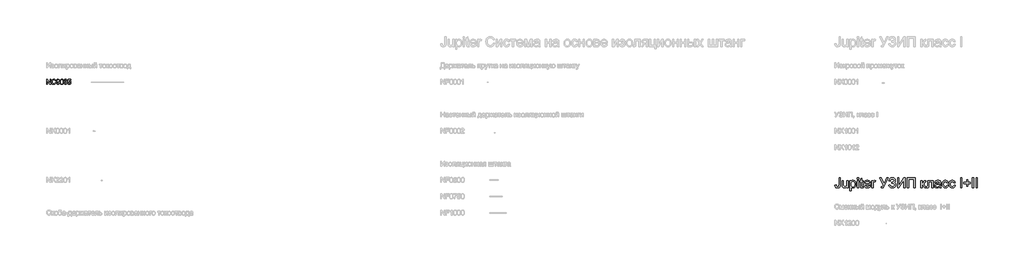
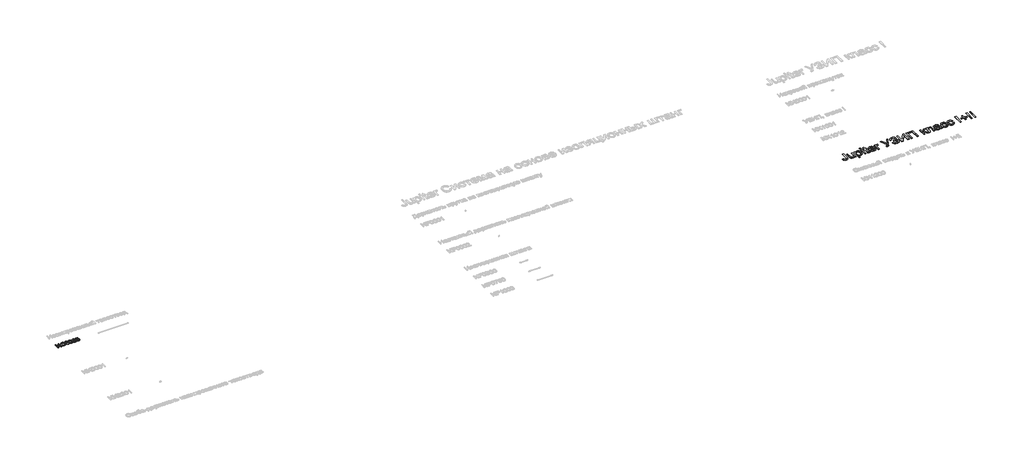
# One storey, part 32 of 124: 2 proxies.
"""IFC4 building model written with IfcOpenShell, lengths in millimetres."""

import ifcopenshell
import ifcopenshell.guid

model = None  # the IFC model being written
_history = None  # IfcOwnerHistory: only IFC2X3 demands one
_inside = {}  # id of a spatial element -> (the spatial element, [elements in it])
_under = {}  # id of a project, library or spatial element -> (it, [spatial elements below it])
_declared = {}  # id of a project -> (the project, [libraries it declares])
_typed = {}  # id of a type object -> (the type object, [elements of that type])
_made_of = {}  # id of a material, layer set ... -> (it, [elements and type objects made of it])


def new_model(schema):
    """Start an empty IFC model of exactly this schema.

    Asked for "IFC4X3", IfcOpenShell would pick the latest addendum, in which some entities
    have other attributes; the version numbers below select the first issue.
    IFC2X3 requires an IfcOwnerHistory on every rooted entity: one is made here for all.
    """
    global model, _history
    if schema == "IFC4X3":
        model = ifcopenshell.file(schema_version=(4, 3, 0, 0))
    else:
        model = ifcopenshell.file(schema=schema)
    _inside.clear()
    _under.clear()
    _declared.clear()
    _typed.clear()
    _made_of.clear()
    _history = None
    if model.schema == "IFC2X3":
        org = make("IfcOrganization", Name="unknown")
        user = make(
            "IfcPersonAndOrganization",
            ThePerson=make("IfcPerson", FamilyName="unknown"),
            TheOrganization=org,
        )
        app = make(
            "IfcApplication",
            ApplicationDeveloper=org,
            Version="unknown",
            ApplicationFullName="unknown",
            ApplicationIdentifier="unknown",
        )
        _history = make(
            "IfcOwnerHistory",
            OwningUser=user,
            OwningApplication=app,
            ChangeAction="ADDED",
            CreationDate=0,
        )
    return model


def make(cls, **values):
    """One entity of the class cls with the attributes given. An attribute that is None is left unset."""
    return model.create_entity(
        cls, **{name: value for name, value in values.items() if value is not None}
    )


def rooted(cls, **values):
    """An entity with a GlobalId (a new one), such as an element, a storey or a relation."""
    return make(cls, GlobalId=ifcopenshell.guid.new(), OwnerHistory=_history, **values)


def si_unit(unit_type, name, prefix=None):
    """IfcSIUnit, for example si_unit("LENGTHUNIT", "METRE", prefix="MILLI")."""
    return make("IfcSIUnit", UnitType=unit_type, Prefix=prefix, Name=name)


def assignment(units):
    """IfcUnitAssignment: the units of a project."""
    return None if units is None else make("IfcUnitAssignment", Units=units)


def point(xyz):
    """IfcCartesianPoint."""
    return None if xyz is None else make("IfcCartesianPoint", Coordinates=xyz)


def direction(xyz):
    """IfcDirection."""
    return None if xyz is None else make("IfcDirection", DirectionRatios=xyz)


def frame(location, z_axis=None, x_axis=None):
    """IfcAxis2Placement3D, a coordinate frame: its origin and axes. An axis left out is left unset."""
    return make(
        "IfcAxis2Placement3D",
        Location=point(location),
        Axis=direction(z_axis),
        RefDirection=direction(x_axis),
    )


def origin():
    """The frame at (0, 0, 0) with its axes left unset."""
    return frame((0.0, 0.0, 0.0))


def origin_with_axes():
    """The frame at (0, 0, 0) with the z axis (0, 0, 1) and the x axis (1, 0, 0) written out."""
    return frame((0.0, 0.0, 0.0), z_axis=(0.0, 0.0, 1.0), x_axis=(1.0, 0.0, 0.0))


def place(relative_to, where):
    """IfcLocalPlacement: puts the frame where relative to a parent placement (None: the world)."""
    return make(
        "IfcLocalPlacement", PlacementRelTo=relative_to, RelativePlacement=where
    )


def context(
    kind, dimensions, precision=None, world=None, true_north=None, identifier=None
):
    """IfcGeometricRepresentationContext, for example the 3D "Model" context."""
    return make(
        "IfcGeometricRepresentationContext",
        ContextIdentifier=identifier,
        ContextType=kind,
        CoordinateSpaceDimension=dimensions,
        Precision=precision,
        WorldCoordinateSystem=world,
        TrueNorth=true_north,
    )


def project(units=None, contexts=None):
    """IfcProject with its units and contexts."""
    return rooted(
        "IfcProject",
        Name="project",
        RepresentationContexts=contexts,
        UnitsInContext=assignment(units),
    )


def spatial(cls, under=None, at=None, **own):
    """A site, building, storey or space (cls), placed at a placement, below another one or the project."""
    s = rooted(cls, ObjectPlacement=at, **own)
    if under is not None:
        _under.setdefault(under.id(), (under, []))[1].append(s)
    return s


def polyline(points):
    """IfcPolyline through the points."""
    return make("IfcPolyline", Points=[point(p) for p in points])


def outline(outer, holes=None, kind="AREA"):
    """IfcArbitraryClosedProfileDef: a profile drawn as a closed curve; with holes, ...WithVoids."""
    if holes is None:
        return make("IfcArbitraryClosedProfileDef", ProfileType=kind, OuterCurve=outer)
    return make(
        "IfcArbitraryProfileDefWithVoids",
        ProfileType=kind,
        OuterCurve=outer,
        InnerCurves=holes,
    )


def extrude(swept, where, along, depth):
    """IfcExtrudedAreaSolid: the profile swept, set in the frame where, extruded along a direction by depth."""
    return make(
        "IfcExtrudedAreaSolid",
        SweptArea=swept,
        Position=where,
        ExtrudedDirection=direction(along),
        Depth=depth,
    )


def shape(context_of_items, identifier, shape_type, items):
    """IfcShapeRepresentation: the items that make up one representation, for example the "Body"."""
    return make(
        "IfcShapeRepresentation",
        ContextOfItems=context_of_items,
        RepresentationIdentifier=identifier,
        RepresentationType=shape_type,
        Items=items,
    )


def made_of(thing, what):
    """Note that an element or type object is made of a material, layer set ...; save() writes the relation."""
    if what is not None:
        _made_of.setdefault(what.id(), (what, []))[1].append(thing)
    return thing


def element(
    cls,
    number,
    at=None,
    inside=None,
    cuts=None,
    type_object=None,
    material=None,
    context=None,
    identifier="Body",
    shape_type=None,
    held_by="IfcProductDefinitionShape",
    body=None,
    shapes=None,
    **own,
):
    """One element of the class cls, such as IfcWall. Its Tag is "e" and its number.

    at: its placement. inside: the storey or other place that contains it. cuts: it is an
    opening in that element (IfcRelVoidsElement). A single representation is given by context,
    identifier, shape_type and body (its items); several are given by shapes. held_by: the class
    of the entity that holds the representations. save() writes the other relations.
    """
    e = rooted(cls, Tag="e%d" % number, ObjectPlacement=at, **own)
    if body is not None:
        shapes = [shape(context, identifier, shape_type, body)]
    if shapes is not None:
        e.Representation = make(held_by, Representations=shapes)
    if inside is not None:
        _inside.setdefault(inside.id(), (inside, []))[1].append(e)
    if cuts is not None:
        rooted(
            "IfcRelVoidsElement", RelatingBuildingElement=cuts, RelatedOpeningElement=e
        )
    if type_object is not None:
        _typed.setdefault(type_object.id(), (type_object, []))[1].append(e)
    return made_of(e, material)


def aggregate(whole, parts):
    """IfcRelAggregates: a whole, such as a stair, and the parts it consists of."""
    return rooted("IfcRelAggregates", RelatingObject=whole, RelatedObjects=parts)


def save(model, path):
    """Write the relations noted so far, then the file.

    IfcRelAggregates (storeys below a building ...), IfcRelContainedInSpatialStructure (elements
    in a storey), IfcRelDefinesByType, IfcRelAssociatesMaterial and IfcRelDeclares: one each for
    every whole, place, type object, material and project.
    """
    for whole, parts in _under.values():
        aggregate(whole, parts)
    for where, things in _inside.values():
        rooted(
            "IfcRelContainedInSpatialStructure",
            RelatedElements=things,
            RelatingStructure=where,
        )
    for kind, things in _typed.values():
        rooted("IfcRelDefinesByType", RelatedObjects=things, RelatingType=kind)
    for what, things in _made_of.values():
        rooted("IfcRelAssociatesMaterial", RelatedObjects=things, RelatingMaterial=what)
    for by, libraries in _declared.values():
        rooted("IfcRelDeclares", RelatingContext=by, RelatedDefinitions=libraries)
    model.write(path)


model = new_model("IFC4")

# Units and contexts
model_context = context("Model", 3, world=origin())
ifc_project = project(units=[si_unit("LENGTHUNIT", "METRE", prefix="MILLI")], contexts=[model_context])

# Site, building, storey
site = spatial("IfcSite", under=ifc_project)
building = spatial("IfcBuilding", under=site)
storey = spatial("IfcBuildingStorey", under=building, Name="Этаж 01", Elevation=0.0)

# Proxies
placement = place(None, origin())
element("IfcBuildingElementProxy", 1, Name="600 мм Arial", ObjectType="600 мм Arial", at=placement, inside=storey, context=model_context, shape_type="SweptSolid", body=[
    extrude(outline(polyline([(49495.1131782, -99712.2233567), (49570.4554108, -99702.511272), (49573.1133582, -99732.4660635), (49578.2912973, -99757.2889011), (49585.989228, -99776.9797849), (49596.2071504, -99791.5387148), (49608.7887147, -99802.0325487), (49623.5775709, -99809.5281444), (49640.573719, -99814.0255018), (49659.7771592, -99815.5246209), (49687.6074321, -99812.1217125), (49711.3542149, -99801.9129871), (49729.6747383, -99785.8365439), (49741.2262329, -99764.830482), (49747.3514681, -99734.4250351), (49749.3932132, -99690.150437), (49749.3932132, -99278.7112136), (49824.7354458, -99278.7112136), (49824.7354458, -99688.8260618), (49820.1921032, -99755.9093436), (49814.5129249, -99783.0360422), (49806.5620753, -99805.8861126), (49796.1418178, -99825.3700628), (49783.0544158, -99842.3984007), (49767.2998693, -99856.9711262), (49748.8781784, -99869.0882394), (49705.9647437, -99885.4222), (49656.245492, -99890.8668535), (49619.1170017, -99888.0571548), (49586.6054304, -99879.6280586), (49558.7107781, -99865.5795649), (49535.4330448, -99845.9116737), (49517.1860979, -99820.6979615), (49504.3838044, -99790.0120046), (49497.0261645, -99753.853803), (49495.1131782, -99712.2233567)])), origin_with_axes(), (0.0, 0.0, 1.0), 20.0),
    extrude(outline(polyline([(50229.6999461, -99881.4490745), (50229.6999461, -99805.3710779), (50202.4398903, -99842.7754797), (50170.6916741, -99869.4929096), (50134.4552976, -99885.5233676), (50093.7307607, -99890.8668535), (50057.0345317, -99887.1144572), (50022.8766884, -99875.8572681), (49994.218681, -99858.9346963), (49974.0219595, -99838.1861518), (49960.4287198, -99812.9862352), (49951.5811578, -99782.7095469), (49947.1665738, -99712.6648151), (49947.1665738, -99438.8134579), (50022.5088064, -99438.8134579), (50022.5088064, -99677.2009907), (50023.6492406, -99724.8784973), (50027.0705432, -99754.0147513), (50038.0518207, -99779.6377323), (50056.8689848, -99799.1170839), (50082.2712366, -99811.4227367), (50113.0077773, -99815.5246209), (50145.5101515, -99811.3307662), (50175.9155984, -99798.7492019), (50200.9867564, -99778.9387565), (50217.4862639, -99753.0582581), (50226.6465256, -99717.6128279), (50229.6999461, -99669.1075868), (50229.6999461, -99438.8134579), (50305.0421787, -99438.8134579), (50305.0421787, -99881.4490745), (50229.6999461, -99881.4490745)])), origin_with_axes(), (0.0, 0.0, 1.0), 20.0),
    extrude(outline(polyline([(50408.6377486, -100050.9690978), (50408.6377486, -99438.8134579), (50483.9799812, -99438.8134579), (50483.9799812, -99512.6841625), (50508.5544985, -99476.2454509), (50536.0720717, -99450.2177997), (50568.1513817, -99434.601209), (50606.4111092, -99429.3956788), (50632.6870807, -99431.2166947), (50657.3627655, -99436.6797423), (50680.4381637, -99445.7848217), (50701.9132751, -99458.5319328), (50721.3190504, -99474.5899819), (50738.1864399, -99493.6278751), (50752.5154436, -99515.6456125), (50764.3060615, -99540.6431941), (50780.0881991, -99596.1565872), (50785.3489116, -99656.7467518), (50779.4076174, -99721.1812833), (50771.9809996, -99750.8463676), (50761.5837348, -99778.8099978), (50748.358377, -99804.3410083), (50732.4474807, -99826.7082336), (50713.8510459, -99845.9116737), (50692.5690725, -99861.9513287), (50669.6454256, -99874.6018708), (50646.1239706, -99883.6379723), (50622.0047073, -99889.0596332), (50597.2876357, -99890.8668535), (50562.6515459, -99886.0292053), (50531.7310642, -99871.5162606), (50505.2619546, -99849.6088878), (50483.9799812, -99822.5879552), (50483.9799812, -100050.9690978), (50408.6377486, -100050.9690978)]), holes=[polyline([(50483.9799812, -99663.6629333), (50486.0171277, -99699.9728862), (50492.1285674, -99731.2060676), (50502.3143001, -99757.3624775), (50516.574326, -99778.4421158), (50533.7406196, -99794.6657118), (50552.6451556, -99806.2539946), (50573.287934, -99813.2069643), (50595.6689549, -99815.5246209), (50618.3718726, -99813.1241909), (50639.3917301, -99805.9229008), (50658.7285274, -99793.9207508), (50676.3822647, -99777.1177406), (50691.092946, -99755.2747472), (50701.6005754, -99728.1526471), (50707.9051531, -99695.7514403), (50710.006679, -99658.071127), (50707.9557369, -99622.0738738), (50701.8029105, -99590.8958747), (50691.5481999, -99564.5371297), (50677.1916051, -99542.9976389), (50659.9839247, -99526.2590081), (50641.1759577, -99514.3028433), (50620.767704, -99507.1291444), (50598.7591637, -99504.7379114), (50576.8196012, -99507.2808957), (50556.1768227, -99514.9098486), (50536.8308283, -99527.62477), (50518.7816179, -99545.4256601), (50503.5559019, -99568.0733954), (50492.6803904, -99595.3288527), (50486.1550835, -99627.192032), (50483.9799812, -99663.6629333)])]), origin_with_axes(), (0.0, 0.0, 1.0), 20.0),
    extrude(outline(polyline([(50870.1089233, -99354.0534462), (50870.1089233, -99278.7112136), (50945.4511559, -99278.7112136), (50945.4511559, -99354.0534462), (50870.1089233, -99354.0534462)])), origin_with_axes(), (0.0, 0.0, 1.0), 20.0),
    extrude(outline(polyline([(50870.1089233, -99881.4490745), (50870.1089233, -99438.8134579), (50945.4511559, -99438.8134579), (50945.4511559, -99881.4490745), (50870.1089233, -99881.4490745)])), origin_with_axes(), (0.0, 0.0, 1.0), 20.0),
    extrude(outline(polyline([(51218.5667492, -99818.6148297), (51227.9845282, -99883.6563664), (51171.6250066, -99890.8668535), (51135.4622064, -99887.7398566), (51108.4964562, -99878.3588657), (51089.4401689, -99863.9011033), (51077.0057574, -99845.5437917), (51070.1631523, -99814.0163047), (51067.8822839, -99760.048016), (51067.8822839, -99514.1556905), (51011.3756095, -99514.1556905), (51011.3756095, -99438.8134579), (51067.8822839, -99438.8134579), (51067.8822839, -99331.2447625), (51143.2245165, -99286.9517702), (51143.2245165, -99438.8134579), (51218.5667492, -99438.8134579), (51218.5667492, -99514.1556905), (51143.2245165, -99514.1556905), (51143.2245165, -99757.8407241), (51147.1976421, -99796.6890628), (51160.0735119, -99810.4478494), (51170.9444249, -99814.255428), (51185.7516752, -99815.5246209), (51218.5667492, -99818.6148297)])), origin_with_axes(), (0.0, 0.0, 1.0), 20.0),
    extrude(outline(polyline([(51603.8127745, -99749.6001674), (51677.6834791, -99759.0179465), (51666.3573122, -99788.6048559), (51651.0672168, -99814.6784923), (51631.8131929, -99837.2388557), (51608.5952404, -99856.285946), (51581.6524828, -99871.415093), (51551.2240433, -99882.2216266), (51517.3099219, -99888.7055468), (51479.9101185, -99890.8668535), (51433.161514, -99887.1374498), (51391.5080751, -99875.9492386), (51354.9498018, -99857.30222), (51323.4866942, -99831.1963939), (51298.18561, -99798.3583273), (51280.113407, -99759.5145872), (51269.2700851, -99714.6651734), (51265.6556445, -99663.8100861), (51269.3068733, -99611.2305519), (51280.2605598, -99564.8866176), (51298.5167038, -99524.7782831), (51324.0753054, -99490.9055484), (51355.4556396, -99463.9949804), (51391.1769813, -99444.7731462), (51431.2393306, -99433.2400456), (51475.6426874, -99429.3956788), (51518.615903, -99433.2308486), (51557.4780372, -99444.736358), (51592.2290902, -99463.912207), (51622.8690619, -99490.7583956), (51647.880439, -99524.5575539), (51665.7457084, -99564.592312), (51676.46487, -99610.86267), (51680.0379239, -99663.3686277), (51679.5964655, -99683.6757138), (51340.9978772, -99683.6757138), (51345.3618773, -99713.7408699), (51354.0392939, -99740.0720237), (51367.0301268, -99762.6691753), (51384.3343762, -99781.5323246), (51404.9955487, -99796.4039542), (51428.0571513, -99807.0265468), (51453.5191839, -99813.4001024), (51481.3816465, -99815.5246209), (51521.480784, -99811.5882836), (51555.2523511, -99799.7792715), (51582.696348, -99779.3618208), (51603.8127745, -99749.6001674)]), holes=[polyline([(51340.9978772, -99608.3334812), (51604.6956913, -99608.3334812), (51594.50536, -99568.5286494), (51585.7405715, -99552.8752705), (51574.5293677, -99540.0545829), (51553.9831583, -99524.6035391), (51530.6042575, -99513.5670793), (51504.3926653, -99506.9452034), (51475.3483818, -99504.7379114), (51448.8562796, -99506.4991464), (51424.5622724, -99511.7828516), (51402.46636, -99520.5890269), (51382.5685426, -99532.9176722), (51365.8712986, -99548.1985706), (51353.3771063, -99565.8615049), (51345.0859658, -99585.9064751), (51340.9978772, -99608.3334812)])]), origin_with_axes(), (0.0, 0.0, 1.0), 20.0),
    extrude(outline(polyline([(51755.3801565, -99881.4490745), (51755.3801565, -99438.8134579), (51821.3046101, -99438.8134579), (51821.3046101, -99504.296453), (51845.6583981, -99466.3310311), (51868.0991998, -99443.9638058), (51890.6135779, -99433.0377105), (51915.1880952, -99429.3956788), (51952.7120587, -99435.2082143), (51990.8246334, -99452.6458209), (51965.661505, -99520.1889552), (51939.1740013, -99508.6006723), (51912.6864977, -99504.7379114), (51890.1905137, -99508.4535195), (51870.0857626, -99519.600344), (51853.8437725, -99537.3322562), (51842.9360714, -99560.8031275), (51833.7758097, -99602.8888277), (51830.7223891, -99648.8005007), (51830.7223891, -99881.4490745), (51755.3801565, -99881.4490745)])), origin_with_axes(), (0.0, 0.0, 1.0), 20.0),
    extrude(outline(polyline([(52240.395779, -99278.7112136), (52323.8314155, -99278.7112136), (52504.0935931, -99635.7039017), (52666.2559766, -99278.7112136), (52748.9558491, -99278.7112136), (52520.1332481, -99748.2757922), (52485.5891287, -99821.1900036), (52457.8876145, -99863.6435859), (52444.4323305, -99875.5537655), (52428.3466903, -99884.0610366), (52409.6306938, -99889.1653993), (52388.284341, -99890.8668535), (52357.492618, -99888.5124088), (52320.4469011, -99881.4490745), (52320.4469011, -99815.5246209), (52379.7494787, -99815.5246209), (52403.4778674, -99811.3307662), (52423.7481654, -99798.7492019), (52443.2091229, -99771.2684169), (52464.5094904, -99722.3768997), (52240.395779, -99278.7112136)])), origin_with_axes(), (0.0, 0.0, 1.0), 20.0),
    extrude(outline(polyline([(52791.3358549, -99711.9290511), (52866.6780876, -99693.0934929), (52872.8263154, -99713.478754), (52882.5889838, -99733.8732121), (52912.9576425, -99774.6897195), (52933.2877213, -99792.5549888), (52956.6804177, -99805.3158956), (52983.1357316, -99812.9724396), (53012.6536632, -99815.5246209), (53042.6866296, -99813.607036), (53069.3626728, -99807.8542813), (53092.6817928, -99798.2663568), (53112.6439895, -99784.8432625), (53128.6422578, -99768.7070385), (53140.0695923, -99750.9797249), (53146.925993, -99731.6613216), (53149.2114598, -99710.7518287), (53146.7144608, -99688.4811724), (53139.2234637, -99668.6109461), (53126.7384685, -99651.1411499), (53109.2594752, -99636.0717837), (53087.4762625, -99623.9362764), (53062.0786093, -99615.2680568), (53033.0665154, -99610.0671251), (53000.439981, -99608.3334812), (52960.8558783, -99608.3334812), (52960.8558783, -99532.9912486), (53010.0600952, -99531.4645383), (53046.1309248, -99526.8844075), (53073.9244095, -99516.0318886), (53098.2965917, -99495.6880143), (53115.2927399, -99468.887811), (53120.9581226, -99438.6663051), (53119.0727274, -99420.304395), (53113.4165417, -99403.1840866), (53103.9895656, -99387.30538), (53090.791799, -99372.6682751), (53074.375065, -99360.4040091), (53055.2911865, -99351.6438191), (53033.5401635, -99346.3877051), (53009.1219961, -99344.6356671), (52967.3857837, -99350.0251383), (52932.2346591, -99366.193552), (52905.305697, -99391.26471), (52888.2359725, -99423.3624141), (52879.1308931, -99454.4484427), (52876.0958666, -99476.4845742), (52800.753634, -99457.649016), (52810.0817419, -99413.5031766), (52824.160126, -99375.2434491), (52842.9887863, -99342.8698335), (52866.567723, -99316.3823299), (52894.8969358, -99295.7809381), (52927.976425, -99281.0656583), (52965.8061904, -99272.2364904), (53008.3862321, -99269.2934345), (53049.4096731, -99272.3514536), (53085.9541508, -99281.5255108), (53118.0196652, -99296.8156062), (53145.6062163, -99318.2217398), (53167.7849021, -99343.7205606), (53183.6268205, -99371.2887176), (53193.1319715, -99400.9262109), (53196.3003552, -99432.6330403), (53191.3707365, -99472.2815224), (53176.5818803, -99507.2027208), (53151.9337866, -99537.3966355), (53117.4264555, -99562.8632666), (53139.3062371, -99570.8509045), (53159.3282147, -99582.1586773), (53177.4923882, -99596.7865851), (53193.7987577, -99614.734628), (53207.2540416, -99635.30383), (53216.8649588, -99657.7952155), (53222.631509, -99682.2087844), (53224.5536925, -99708.5445367), (53220.8656755, -99745.8063843), (53209.8016245, -99779.8952497), (53191.3615394, -99810.8111329), (53165.5454204, -99838.5540338), (53133.6408544, -99861.4408924), (53096.9354283, -99877.7886486), (53055.4291422, -99887.5973023), (53009.1219961, -99890.8668535), (52969.087238, -99888.0709504), (52932.7129057, -99879.6832409), (52899.9989993, -99865.7037251), (52870.9455187, -99846.1324029), (52845.552464, -99820.9692744), (52823.8198351, -99790.2143396), (52805.7476321, -99753.8675985), (52791.3358549, -99711.9290511)])), origin_with_axes(), (0.0, 0.0, 1.0), 20.0),
    extrude(outline(polyline([(53328.1492623, -99278.7112136), (53403.4914949, -99278.7112136), (53403.4914949, -99756.0748905), (53718.987094, -99278.7112136), (53799.0382161, -99278.7112136), (53799.0382161, -99881.4490745), (53723.6959835, -99881.4490745), (53723.6959835, -99405.4097727), (53408.9361484, -99881.4490745), (53328.1492623, -99881.4490745), (53328.1492623, -99278.7112136)])), origin_with_axes(), (0.0, 0.0, 1.0), 20.0),
    extrude(outline(polyline([(53930.8871232, -99278.7112136), (54401.776077, -99278.7112136), (54401.776077, -99881.4490745), (54326.4338444, -99881.4490745), (54326.4338444, -99354.0534462), (54006.2293558, -99354.0534462), (54006.2293558, -99881.4490745), (53930.8871232, -99881.4490745), (53930.8871232, -99278.7112136)])), origin_with_axes(), (0.0, 0.0, 1.0), 20.0),
    extrude(outline(polyline([(54759.6516819, -99438.8134579), (54834.9939145, -99438.8134579), (54834.9939145, -99627.1690394), (54865.6384847, -99623.784525), (54885.4673243, -99613.630982), (54903.0152955, -99587.1434783), (54926.8172605, -99534.7570822), (54946.0023066, -99491.9172239), (54961.1774389, -99466.6989131), (54975.3408957, -99452.9585206), (54991.4909153, -99444.552417), (55013.8397465, -99440.2481976), (55046.5996382, -99438.8134579), (55061.0206124, -99438.8134579), (55061.0206124, -99514.5971489), (55040.7135262, -99514.1556905), (55017.1690786, -99516.1422532), (55003.9253267, -99522.1019416), (54993.1831725, -99538.6934195), (54978.0264343, -99571.6924345), (54962.115538, -99604.7466318), (54947.6393815, -99625.3296294), (54930.1098044, -99639.0700219), (54905.0386464, -99651.5964039), (54928.9141879, -99662.2006024), (54952.5690002, -99680.9165989), (54976.0030833, -99707.7443934), (54999.2164372, -99742.6839859), (55079.8561705, -99881.4490745), (54994.2132421, -99881.4490745), (54915.1921895, -99745.6270418), (54893.8550338, -99709.4826358), (54875.460934, -99688.1638742), (54856.8828933, -99677.7344196), (54834.9939145, -99674.2579348), (54834.9939145, -99881.4490745), (54759.6516819, -99881.4490745), (54759.6516819, -99438.8134579)])), origin_with_axes(), (0.0, 0.0, 1.0), 20.0),
    extrude(outline(polyline([(55164.6161822, -99438.8134579), (55503.656229, -99438.8134579), (55503.656229, -99881.0076161), (55428.3139964, -99881.0076161), (55428.3139964, -99514.1556905), (55239.9584148, -99514.1556905), (55239.9584148, -99725.3199557), (55238.689222, -99786.6090961), (55234.8816433, -99822.735108), (55225.3718937, -99844.7896336), (55206.9961881, -99863.8643151), (55179.1107328, -99877.0528846), (55141.0717345, -99881.4490745), (55079.8561705, -99877.6231017), (55079.8561705, -99806.1068418), (55113.5541613, -99806.1068418), (55133.9900061, -99804.9480136), (55147.620034, -99801.4715287), (55156.1365022, -99795.4750522), (55161.2316679, -99786.7562489), (55164.6161822, -99721.0525246), (55164.6161822, -99438.8134579)])), origin_with_axes(), (0.0, 0.0, 1.0), 20.0),
    extrude(outline(polyline([(55899.2029502, -99824.9424), (55863.205697, -99855.8076994), (55826.141586, -99876.0044209), (55787.1644886, -99887.1512454), (55745.4282762, -99890.8668535), (55711.8820368, -99888.6319704), (55682.4652727, -99881.927321), (55657.1779841, -99870.7529054), (55636.0201708, -99855.1087236), (55619.3137297, -99835.9880569), (55607.3805575, -99814.3841867), (55600.2206542, -99790.2971131), (55597.8340197, -99763.726836), (55601.4392633, -99732.4936546), (55612.254994, -99704.1299528), (55628.9384424, -99679.8497411), (55650.1468395, -99660.8670301), (55675.0708446, -99646.5196323), (55702.9011176, -99636.1453601), (55768.0898071, -99624.8145946), (55845.1242969, -99612.895218), (55898.7614918, -99598.9157022), (55899.2029502, -99582.1402832), (55894.0158141, -99548.5158688), (55887.5318939, -99536.0630633), (55878.4544057, -99526.5165255), (55862.7642386, -99516.9883818), (55843.6527689, -99510.1825649), (55795.165922, -99504.7379114), (55750.2843185, -99508.361549), (55718.9407726, -99519.232462), (55697.5668286, -99539.337213), (55682.5940314, -99570.6623649), (55607.2517988, -99561.2445859), (55620.3300037, -99520.0418024), (55639.8461436, -99487.6681868), (55667.6212342, -99462.9097285), (55705.4762915, -99444.552417), (55751.7742406, -99433.1848633), (55804.8780066, -99429.3956788), (55855.8112689, -99432.7434049), (55896.1863178, -99442.7865834), (55926.6285529, -99457.8881393), (55947.7633736, -99476.4109978), (55961.7796776, -99499.311652), (55970.8663629, -99527.5465951), (55974.5451828, -99593.4710486), (55974.5451828, -99687.207381), (55978.3711556, -99818.0997949), (55984.0365383, -99850.4550164), (55993.380741, -99881.4490745), (55918.0385083, -99881.4490745), (55905.9719789, -99855.2558764), (55899.2029502, -99824.9424)]), holes=[polyline([(55899.2029502, -99674.2579348), (55848.5823877, -99686.8027108), (55777.654739, -99697.3609241), (55712.8339314, -99709.5746063), (55695.966542, -99717.9255276), (55683.4769482, -99729.440234), (55675.7514263, -99743.2358089), (55673.1762524, -99758.4293353), (55678.7864528, -99780.8333488), (55695.6170541, -99799.1906603), (55723.3001742, -99811.4411308), (55761.4679312, -99815.5246209), (55801.9349507, -99811.0180665), (55837.6930806, -99797.4984032), (55866.6821818, -99777.5775931), (55886.8421152, -99753.8675985), (55895.7816476, -99729.440234), (55898.7614918, -99695.5950905), (55899.2029502, -99674.2579348)])]), origin_with_axes(), (0.0, 0.0, 1.0), 20.0),
    extrude(outline(polyline([(56360.6741249, -99721.3468302), (56436.0163576, -99730.7646092), (56427.8217861, -99766.3158055), (56415.0102956, -99797.7743147), (56397.5818861, -99825.1401366), (56375.5365575, -99848.4132713), (56349.803212, -99866.9867135), (56321.3107515, -99880.253458), (56290.059176, -99888.2135046), (56256.0484855, -99890.8668535), (56213.7926398, -99887.165041), (56175.9053929, -99876.0596032), (56142.3867446, -99857.5505403), (56113.236695, -99831.6378523), (56089.6416635, -99798.8089828), (56072.7880696, -99759.5513754), (56062.6759133, -99713.8650301), (56059.3051945, -99661.7499469), (56065.0625477, -99594.7034533), (56072.2592392, -99564.5325312), (56082.3346074, -99536.5964922), (56095.35763, -99511.4563563), (56111.397285, -99489.6731437), (56130.4535724, -99471.2468543), (56152.5264921, -99456.177488), (56176.6181642, -99444.4604465), (56201.7307089, -99436.0911311), (56227.8641262, -99431.0695419), (56255.0184159, -99429.3956788), (56288.4450937, -99431.6949413), (56318.6803952, -99438.5927287), (56345.7243204, -99450.089041), (56369.5768692, -99466.1838783), (56389.8333716, -99486.5093585), (56406.0891572, -99510.6975997), (56418.3442262, -99538.7486018), (56426.5985785, -99570.6623649), (56351.2563459, -99580.080144), (56337.5895297, -99547.2098877), (56316.3075563, -99523.6470459), (56288.587648, -99509.465195), (56255.6070271, -99504.7379114), (56230.0070388, -99507.064765), (56206.9178451, -99514.0453259), (56186.339446, -99525.679594), (56168.2718415, -99541.9675693), (56153.5611602, -99563.2863309), (56143.0535307, -99590.0129579), (56136.748953, -99622.1474502), (56134.6474271, -99659.6898078), (56136.7029678, -99697.7977839), (56142.8695897, -99730.3047567), (56153.1472929, -99757.2107262), (56167.5360775, -99778.5156922), (56185.244997, -99794.7070985), (56205.4831053, -99806.2723887), (56228.2504023, -99813.2115629), (56253.5468879, -99815.5246209), (56292.5607735, -99809.7488736), (56309.4327615, -99802.5291894), (56324.548113, -99792.4216316), (56337.4837637, -99779.3158355), (56347.8166492, -99763.1014366), (56355.5467696, -99743.7784348), (56360.6741249, -99721.3468302)])), origin_with_axes(), (0.0, 0.0, 1.0), 20.0),
    extrude(outline(polyline([(56784.4741834, -99721.3468302), (56859.816416, -99730.7646092), (56851.6218446, -99766.3158055), (56838.8103541, -99797.7743147), (56821.3819446, -99825.1401366), (56799.336616, -99848.4132713), (56773.6032704, -99866.9867135), (56745.1108099, -99880.253458), (56713.8592344, -99888.2135046), (56679.848544, -99890.8668535), (56637.5926983, -99887.165041), (56599.7054513, -99876.0596032), (56566.186803, -99857.5505403), (56537.0367534, -99831.6378523), (56513.441722, -99798.8089828), (56496.5881281, -99759.5513754), (56486.4759717, -99713.8650301), (56483.1052529, -99661.7499469), (56488.8626062, -99594.7034533), (56496.0592977, -99564.5325312), (56506.1346658, -99536.5964922), (56519.1576885, -99511.4563563), (56535.1973435, -99489.6731437), (56554.2536308, -99471.2468543), (56576.3265505, -99456.177488), (56600.4182227, -99444.4604465), (56625.5307674, -99436.0911311), (56651.6641846, -99431.0695419), (56678.8184744, -99429.3956788), (56712.2451522, -99431.6949413), (56742.4804536, -99438.5927287), (56769.5243788, -99450.089041), (56793.3769277, -99466.1838783), (56813.63343, -99486.5093585), (56829.8892157, -99510.6975997), (56842.1442847, -99538.7486018), (56850.3986369, -99570.6623649), (56775.0564043, -99580.080144), (56761.3895882, -99547.2098877), (56740.1076148, -99523.6470459), (56712.3877064, -99509.465195), (56679.4070856, -99504.7379114), (56653.8070972, -99507.064765), (56630.7179035, -99514.0453259), (56610.1395044, -99525.679594), (56592.0718999, -99541.9675693), (56577.3612186, -99563.2863309), (56566.8535891, -99590.0129579), (56560.5490114, -99622.1474502), (56558.4474855, -99659.6898078), (56560.5030262, -99697.7977839), (56566.6696481, -99730.3047567), (56576.9473514, -99757.2107262), (56591.3361359, -99778.5156922), (56609.0450555, -99794.7070985), (56629.2831637, -99806.2723887), (56652.0504607, -99813.2115629), (56677.3469464, -99815.5246209), (56716.360832, -99809.7488736), (56733.23282, -99802.5291894), (56748.3481715, -99792.4216316), (56761.2838221, -99779.3158355), (56771.6167077, -99763.1014366), (56779.3468281, -99743.7784348), (56784.4741834, -99721.3468302)])), origin_with_axes(), (0.0, 0.0, 1.0), 20.0),
    extrude(outline(polyline([(57180.0209046, -99881.4490745), (57180.0209046, -99278.7112136), (57255.3631372, -99278.7112136), (57255.3631372, -99881.4490745), (57180.0209046, -99881.4490745)])), origin_with_axes(), (0.0, 0.0, 1.0), 20.0),
    extrude(outline(polyline([(57547.3142886, -99787.2712837), (57547.3142886, -99627.1690394), (57387.2120443, -99627.1690394), (57387.2120443, -99551.8268068), (57547.3142886, -99551.8268068), (57547.3142886, -99391.7245625), (57622.6565212, -99391.7245625), (57622.6565212, -99551.8268068), (57782.7587655, -99551.8268068), (57782.7587655, -99627.1690394), (57622.6565212, -99627.1690394), (57622.6565212, -99787.2712837), (57547.3142886, -99787.2712837)])), origin_with_axes(), (0.0, 0.0, 1.0), 20.0),
    extrude(outline(polyline([(57905.1898935, -99881.4490745), (57905.1898935, -99278.7112136), (57980.5321261, -99278.7112136), (57980.5321261, -99881.4490745), (57905.1898935, -99881.4490745)])), origin_with_axes(), (0.0, 0.0, 1.0), 20.0),
    extrude(outline(polyline([(58140.6343704, -99881.4490745), (58140.6343704, -99278.7112136), (58215.976603, -99278.7112136), (58215.976603, -99881.4490745), (58140.6343704, -99881.4490745)])), origin_with_axes(), (0.0, 0.0, 1.0), 20.0),
])
element("IfcBuildingElementProxy", 2, Name="300", ObjectType="300", at=placement, inside=storey, context=model_context, shape_type="SweptSolid", body=[
    extrude(outline(polyline([(1299.8220677, -93548.8731539), (1299.8220677, -93247.5042234), (1340.1419344, -93247.5042234), (1497.5954283, -93486.2596383), (1497.5954283, -93247.5042234), (1535.2665446, -93247.5042234), (1535.2665446, -93548.8731539), (1494.9466779, -93548.8731539), (1337.493184, -93310.0441626), (1337.493184, -93548.8731539), (1299.8220677, -93548.8731539)])), origin_with_axes(), (0.0, 0.0, 1.0), 20.0),
    extrude(outline(polyline([(1813.0910274, -93441.7459169), (1850.7621437, -93451.4580016), (1843.3079347, -93474.8851869), (1833.3797194, -93495.3555206), (1820.9774976, -93512.8690029), (1806.1012695, -93527.4256336), (1789.0867272, -93538.8690629), (1770.2695631, -93547.042941), (1749.6497773, -93551.9472678), (1727.2273697, -93553.5820434), (1683.5321857, -93548.6340306), (1648.8317165, -93533.7899921), (1622.2338483, -93509.5649627), (1602.8464671, -93476.4739772), (1591.0098639, -93437.5704562), (1587.0643295, -93395.9078203), (1591.5248987, -93351.964316), (1604.9066063, -93314.0172882), (1626.5104765, -93283.2715504), (1655.6375334, -93260.9319163), (1690.1816528, -93247.3294795), (1728.0367101, -93242.7953339), (1769.3406611, -93248.6630517), (1787.3093973, -93255.997699), (1803.4893073, -93266.2662052), (1817.6136766, -93279.1972573), (1829.4157909, -93294.5195424), (1846.0532541, -93332.3378115), (1808.3821378, -93341.3141322), (1795.322327, -93313.8425442), (1777.4800502, -93294.997789), (1754.6345783, -93284.0992849), (1726.5651821, -93280.4664502), (1694.2099606, -93284.4947581), (1667.6304865, -93296.5796816), (1647.4613561, -93315.4520279), (1634.3371659, -93339.8426042), (1627.1358759, -93367.4153598), (1624.7354458, -93395.8342439), (1627.5773342, -93430.6358806), (1636.1029995, -93460.7286278), (1650.6343383, -93484.9628543), (1671.4932474, -93502.1889287), (1696.500026, -93512.4804275), (1723.4749733, -93515.9109271), (1754.9196869, -93511.2388258), (1781.122082, -93497.2225218), (1800.9049363, -93474.0091679), (1813.0910274, -93441.7459169)])), origin_with_axes(), (0.0, 0.0, 1.0), 20.0),
    extrude(outline(polyline([(1893.1421495, -93473.5309213), (1930.8132658, -93468.8220317), (1937.2512007, -93490.2051727), (1947.7358376, -93504.7641027), (1962.009659, -93513.124221), (1979.8151476, -93515.9109271), (1995.7904232, -93514.1175024), (2010.312565, -93508.7372282), (2022.3790944, -93500.3587158), (2030.9875331, -93489.5705763), (2043.3115799, -93456.8290787), (2048.7562335, -93413.1246977), (2048.5355043, -93405.7670578), (2035.4848905, -93421.6963482), (2018.4059689, -93434.3147006), (1998.5311441, -93442.5368632), (1977.0928208, -93445.277584), (1959.197661, -93443.603721), (1942.7418395, -93438.5821317), (1927.7253563, -93430.2128163), (1914.1482114, -93418.4957748), (1902.8979202, -93404.0426109), (1894.8619978, -93387.4649285), (1890.0404444, -93368.7627276), (1888.43326, -93347.9360081), (1890.1186194, -93326.4149114), (1895.1746975, -93307.1011067), (1903.6014945, -93289.9945939), (1915.3990102, -93275.0953731), (1929.7349117, -93263.0242451), (1945.776866, -93254.4020108), (1963.524873, -93249.2286703), (1982.9789327, -93247.5042234), (2011.0759201, -93251.4405608), (2036.6529158, -93263.2495728), (2058.0452539, -93282.3426484), (2073.5882681, -93308.1311762), (2083.0520325, -93343.7789416), (2086.2066206, -93392.4497295), (2083.0612295, -93444.0543764), (2073.6250563, -93483.9419817), (2057.9808745, -93513.9151673), (2036.2114574, -93535.7765549), (2009.2549042, -93549.1306713), (1978.049314, -93553.5820434), (1945.8412453, -93548.3305279), (1920.144688, -93532.5759815), (1902.1736525, -93507.3116855), (1893.1421495, -93473.5309213)]), holes=[polyline([(2048.5355043, -93347.0530913), (2044.4704082, -93321.5220809), (2032.2751201, -93301.8771823), (2013.3475914, -93289.3508004), (1989.0857739, -93285.1753397), (1963.9226454, -93289.6726971), (1943.7627121, -93303.1647693), (1930.5189602, -93323.8121463), (1926.1043763, -93349.7754181), (1930.2798369, -93373.0531513), (1942.8062189, -93391.5300245), (1962.4695115, -93403.5873569), (1988.0557043, -93407.6064677), (2012.1243838, -93403.5873569), (2031.5025679, -93391.5300245), (2044.2772702, -93372.3725696), (2048.5355043, -93347.0530913)])]), origin_with_axes(), (0.0, 0.0, 1.0), 20.0),
    extrude(outline(polyline([(2119.1688474, -93400.6167098), (2121.9371594, -93352.3781832), (2130.2420954, -93313.9069236), (2144.000882, -93284.6143197), (2163.1307458, -93263.9117604), (2187.7696424, -93251.6061077), (2218.0555277, -93247.5042234), (2241.2688816, -93249.9322446), (2262.0542143, -93257.2163081), (2279.4366386, -93269.0713054), (2292.4412671, -93285.2121279), (2302.2637164, -93305.50082), (2310.0996028, -93329.7994258), (2315.2315567, -93360.6555281), (2316.942208, -93400.6167098), (2314.2014871, -93448.579325), (2305.9793245, -93486.9586141), (2292.3033113, -93516.2788091), (2273.2010387, -93537.0641418), (2248.5069598, -93549.452568), (2218.0555277, -93553.5820434), (2197.3069831, -93551.7886187), (2178.9128834, -93546.4083445), (2162.8732284, -93537.4412209), (2149.1880182, -93524.8872478), (2136.0546309, -93502.1935272), (2126.6736401, -93473.9171974), (2121.0450455, -93440.0582582), (2119.1688474, -93400.6167098)]), holes=[polyline([(2156.8399637, -93400.5431334), (2161.2545476, -93459.7997258), (2166.7727775, -93480.0677245), (2174.4982994, -93494.0955248), (2194.2167744, -93510.4570765), (2218.0555277, -93515.9109271), (2241.8942809, -93510.4386824), (2261.6127559, -93494.0219484), (2269.3382778, -93479.9711555), (2274.8565077, -93459.7077553), (2279.2710917, -93400.5431334), (2275.0036605, -93342.6201133), (2269.6693716, -93322.4187932), (2262.2013671, -93308.0575998), (2242.5196803, -93290.8959048), (2217.6140693, -93285.1753397), (2194.0328334, -93290.2153231), (2175.0869106, -93305.3352731), (2167.1038713, -93320.9702579), (2161.4017004, -93342.0498962), (2156.8399637, -93400.5431334)])]), origin_with_axes(), (0.0, 0.0, 1.0), 20.0),
    extrude(outline(polyline([(2349.9044347, -93468.8220317), (2387.575551, -93464.1131422), (2396.0092458, -93487.7863486), (2408.3608838, -93503.7708213), (2425.2374703, -93512.8759007), (2447.2460107, -93515.9109271), (2473.0713267, -93511.7354665), (2493.0105309, -93499.2090845), (2505.757642, -93480.5206792), (2510.006679, -93457.8591483), (2505.7944302, -93436.3472486), (2493.1576836, -93418.900445), (2474.0278199, -93407.3397533), (2450.3362194, -93403.4861894), (2423.9222922, -93407.6064677), (2428.1161469, -93369.9353514), (2434.1494116, -93370.3768098), (2456.718972, -93367.6728772), (2476.8972995, -93359.5610792), (2491.1343327, -93345.8390807), (2495.8800104, -93326.3045468), (2492.4403138, -93310.0349656), (2482.1212238, -93296.837199), (2466.3758744, -93288.0908046), (2446.6573995, -93285.1753397), (2426.9021363, -93288.1183957), (2410.7521167, -93296.9475636), (2398.9614988, -93311.6628434), (2392.2844406, -93332.2642351), (2354.6133243, -93327.5553456), (2365.7049664, -93293.7285961), (2385.4418355, -93268.4734972), (2412.4443739, -93252.7465419), (2445.3330243, -93247.5042234), (2469.0154277, -93250.0885945), (2490.7664507, -93257.8417075), (2509.1053681, -93270.0737838), (2522.5514551, -93286.0950447), (2530.8012088, -93304.5535238), (2533.5511267, -93324.0972548), (2530.9391646, -93342.3074136), (2523.1032781, -93358.8253152), (2510.1538318, -93372.8968015), (2492.2011905, -93383.7677145), (2515.7824264, -93393.2958581), (2533.2568211, -93409.5194541), (2544.0725518, -93431.5555856), (2547.6777953, -93458.5213359), (2545.8751736, -93477.6328055), (2540.4673082, -93495.235959), (2531.4541993, -93511.3307963), (2518.8358469, -93525.9173174), (2503.462978, -93538.020635), (2486.1863198, -93546.6658619), (2467.0058723, -93551.852998), (2445.9216355, -93553.5820434), (2426.8653481, -93552.1059169), (2409.5013179, -93547.6775374), (2393.829545, -93540.2969049), (2379.8500291, -93529.9640193), (2368.1283891, -93517.2858861), (2359.2302433, -93502.8695104), (2353.1555919, -93486.7148923), (2349.9044347, -93468.8220317)])), origin_with_axes(), (0.0, 0.0, 1.0), 20.0),
    extrude(outline(polyline([(2580.6400221, -93468.8220317), (2618.3111384, -93464.1131422), (2625.2273199, -93486.7286879), (2637.2938494, -93502.9246927), (2654.4555444, -93512.6643685), (2676.6572228, -93515.9109271), (2703.6597613, -93511.3951756), (2723.893271, -93497.8479212), (2736.5300176, -93476.8326622), (2740.7422664, -93449.9128972), (2736.796732, -93424.5658277), (2724.9601288, -93405.1784466), (2705.1404863, -93392.8727938), (2677.245834, -93388.7709096), (2658.9712959, -93390.4079845), (2644.1732427, -93395.3192091), (2623.0200279, -93412.3153573), (2585.3489116, -93407.6064677), (2618.3111384, -93252.213113), (2764.2867141, -93252.213113), (2764.2867141, -93289.8842293), (2648.7717676, -93289.8842293), (2632.6585362, -93372.8784074), (2659.5691042, -93356.5444468), (2687.7672591, -93351.0997933), (2706.1130743, -93352.7874519), (2722.964369, -93357.8504279), (2738.321143, -93366.2887212), (2752.1833965, -93378.1023317), (2763.6590154, -93392.5692912), (2771.8558861, -93408.9676311), (2776.7740086, -93427.2973515), (2778.4133827, -93447.5584524), (2772.5088767, -93485.2295687), (2765.1282442, -93502.0233818), (2754.7953586, -93517.4560315), (2739.1419797, -93533.2611617), (2720.8766387, -93544.5505404), (2699.9993354, -93551.3241677), (2676.51007, -93553.5820434), (2639.5103384, -93547.7787049), (2623.8316676, -93540.5245319), (2610.0337935, -93530.3686895), (2598.553576, -93517.8170157), (2589.8278749, -93503.3753481), (2580.6400221, -93468.8220317)])), origin_with_axes(), (0.0, 0.0, 1.0), 20.0),
])

save(model, "model.ifc")
